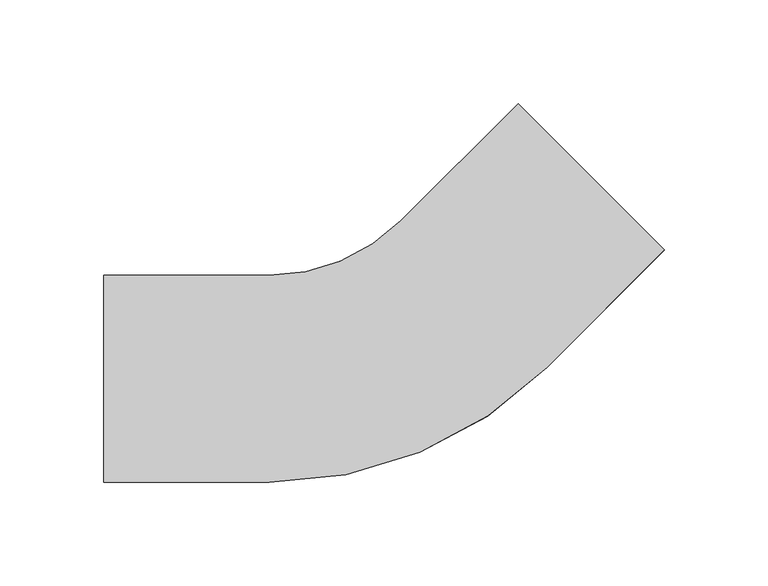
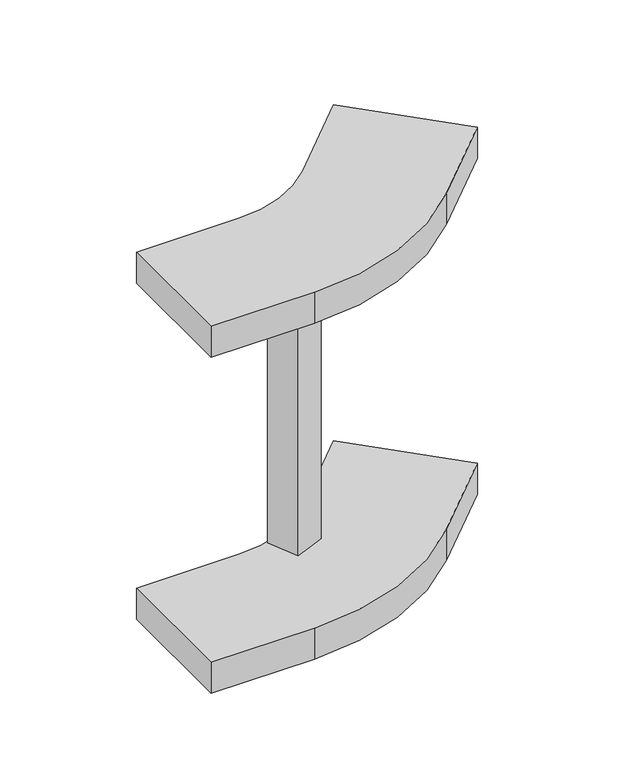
"""IFC4 building model written with IfcOpenShell, lengths in millimetres: cable carrier fitting geometry, Common_はしご垂直外側曲げ : 03 強電_低圧."""

from ifc_helpers import new_model, si_unit, point, frame, frame_2d, origin, place, context, project, spatial, polyline, circle_curve, trimmed, segment, composite_curve, outline, extrude, source, transform, mapped, element, save


def cable_carrier_fitting_9c4a5b13(model_context):
    return source(origin(), model_context, "Body", "SweptSolid", [
        extrude(outline(polyline([(-11.8151198, 61.7109217), (-2.0949606, 38.2443815), (-25.5615007, 28.5242224), (-35.2816599, 51.9907625), (-11.8151198, 61.7109217)])), frame((0.0, 0.0, -124.6), z_axis=(0.0, 0.0, 1.0), x_axis=(1.0, 0.0, 0.0)), (0.0, 0.0, 1.0), 249.2),
        extrude(outline(composite_curve([segment(polyline([(-137.9898987, -50.0), (-137.9898987, 50.0), (-57.9898987, 50.0)]), True, "CONTINUOUS"), segment(trimmed(circle_curve(frame_2d((-57.9898987, 140.0)), 90.0), [point((-57.9898987, 50.0))], [point((5.6497116, 76.3603897))], True, "CARTESIAN"), True, "CONTINUOUS"), segment(polyline([(5.6497116, 76.3603897), (62.2182541, 132.9289322), (132.9289322, 62.2182541), (76.3603897, 5.6497116)]), True, "CONTINUOUS"), segment(trimmed(circle_curve(frame_2d((-57.9898987, 140.0)), 190.0), [point((76.3603897, 5.6497116))], [point((-57.9898987, -50.0))], False, "CARTESIAN"), True, "CONTINUOUS"), segment(polyline([(-57.9898987, -50.0), (-137.9898987, -50.0)]), True, "CONTINUOUS")], self_intersect=False)), frame((0.0, 0.0, 124.6), z_axis=(0.0, 0.0, 1.0), x_axis=(1.0, 0.0, 0.0)), (0.0, 0.0, 1.0), 25.4),
        extrude(outline(composite_curve([segment(polyline([(-137.9898987, -50.0), (-137.9898987, 50.0), (-57.9898987, 50.0)]), True, "CONTINUOUS"), segment(trimmed(circle_curve(frame_2d((-57.9898987, 140.0)), 90.0), [point((-57.9898987, 50.0))], [point((5.6497116, 76.3603897))], True, "CARTESIAN"), True, "CONTINUOUS"), segment(polyline([(5.6497116, 76.3603897), (62.2182541, 132.9289322), (132.9289322, 62.2182541), (76.3603897, 5.6497116)]), True, "CONTINUOUS"), segment(trimmed(circle_curve(frame_2d((-57.9898987, 140.0)), 190.0), [point((76.3603897, 5.6497116))], [point((-57.9898987, -50.0))], False, "CARTESIAN"), True, "CONTINUOUS"), segment(polyline([(-57.9898987, -50.0), (-137.9898987, -50.0)]), True, "CONTINUOUS")], self_intersect=False)), frame((0.0, 0.0, -150.0), z_axis=(0.0, 0.0, 1.0), x_axis=(1.0, 0.0, 0.0)), (0.0, 0.0, 1.0), 25.4),
    ])


if __name__ == "__main__":
    model = new_model("IFC4")
    model_context = context("Model", 3, world=origin())
    ifc_project = project(units=[si_unit("LENGTHUNIT", "METRE", prefix="MILLI")], contexts=[model_context])
    site = spatial("IfcSite", under=ifc_project)
    building = spatial("IfcBuilding", under=site)
    placement = place(None, origin())
    cable_carrier_fitting_shape = cable_carrier_fitting_9c4a5b13(model_context)
    element("IfcCableCarrierFitting", 1, ObjectType="Common_はしご垂直外側曲げ : 03 強電_低圧", at=placement, inside=building, context=model_context, shape_type="MappedRepresentation", body=[
        mapped(cable_carrier_fitting_shape, transform((0.0, 0.0, 0.0), x_axis=(1.0, 0.0, 0.0), y_axis=(0.0, 1.0, 0.0), z_axis=(0.0, 0.0, 1.0))),
    ])
    save(model, "model.ifc")
